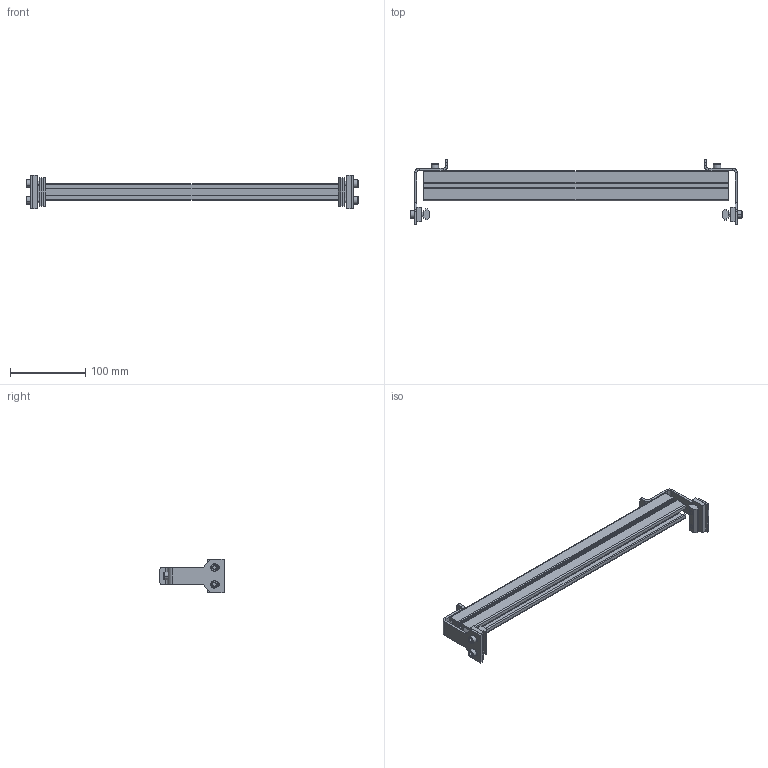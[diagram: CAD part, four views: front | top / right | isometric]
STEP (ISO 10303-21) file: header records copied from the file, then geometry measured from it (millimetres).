
FILE_DESCRIPTION((''),'2;1');
FILE_NAME('207133-16_ASM','2016-06-21T',('adam.dellomodarme'),(''),'PRO/ENGINEER BY PARAMETRIC TECHNOLOGY CORPORATION, 2012420','PRO/ENGINEER BY PARAMETRIC TECHNOLOGY CORPORATION, 2012420','');
FILE_SCHEMA(('CONFIG_CONTROL_DESIGN'));
Length unit declared in the file: inch
Products named in the file (9): 200626M; 9206XXM_920620M; 207135-WW_207135-16; 639971M; 201937; 202444; 9206XXM_920614M; ASM0001_ASM; 207133-16_ASM
Assembly tree (16 placements, depth 3):
  207133-16_ASM
    ASM0001_ASM
      200626M  x2
      9206XXM_920620M  x4
      207135-WW_207135-16
      639971M  x2
      201937  x2
      202444  x2
      9206XXM_920614M  x2
Bounding box: 442.17 x 85.8 x 44.45 mm (x, y, z)
Volume: 209027.2 mm3; surface area: 129544.4 mm2
Topology: 15 solids, 15 shells, 428 faces, 1050 edges, 664 vertices
Faces by surface type: plane 258, cylinder 104, cone 66
Entity records: 7558 total; most frequent: CARTESIAN_POINT 1393, DIRECTION 1272, ORIENTED_EDGE 1216, EDGE_CURVE 608, VECTOR 460, LINE 460, AXIS2_PLACEMENT_3D 406, VERTEX_POINT 392
